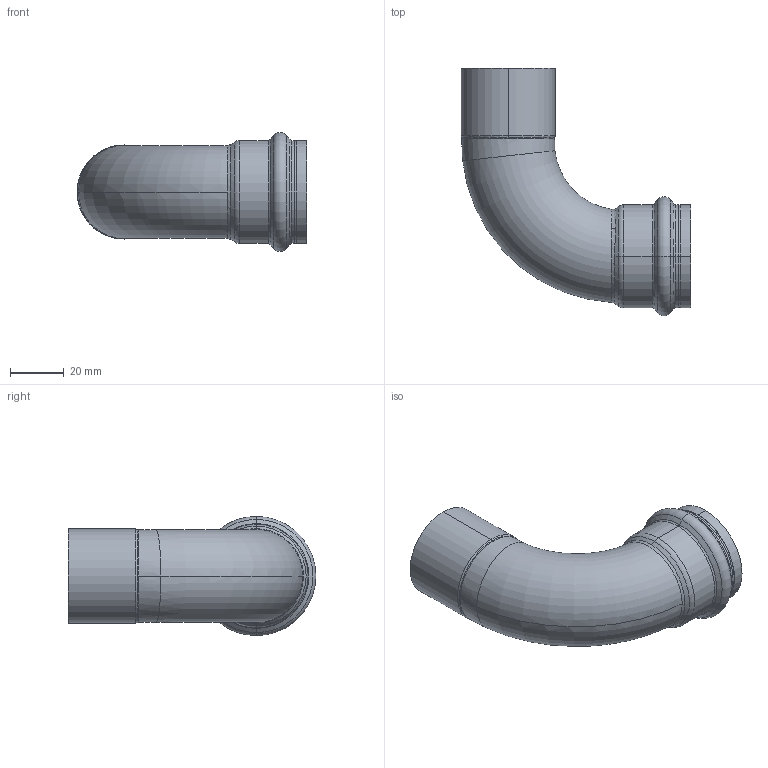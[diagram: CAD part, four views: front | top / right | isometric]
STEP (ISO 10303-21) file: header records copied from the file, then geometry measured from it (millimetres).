
FILE_DESCRIPTION (( 'STEP AP203' ), '1' );
FILE_NAME ('SP5001 Ø35.STEP', '2017-04-24T07:57:53', ( '' ), ( '' ), 'SwSTEP 2.0', 'SolidWorks 2016', '' );
FILE_SCHEMA (( 'CONFIG_CONTROL_DESIGN' ));
Length unit declared in the file: millimetre
Products named in the file (1): SP5001 ﾘ35
Bounding box: 85.5 x 92.15 x 44.3 mm (x, y, z)
Volume: 20796 mm3; surface area: 26818.5 mm2
Topology: 1 solids, 1 shells, 76 faces, 168 edges, 96 vertices
Faces by surface type: torus 24, cylinder 16, cone 16, bspline 16, plane 4
Entity records: 4021 total; most frequent: CARTESIAN_POINT 2345, DIRECTION 342, ORIENTED_EDGE 336, EDGE_CURVE 168, AXIS2_PLACEMENT_3D 157, VERTEX_POINT 96, CIRCLE 96, EDGE_LOOP 80
